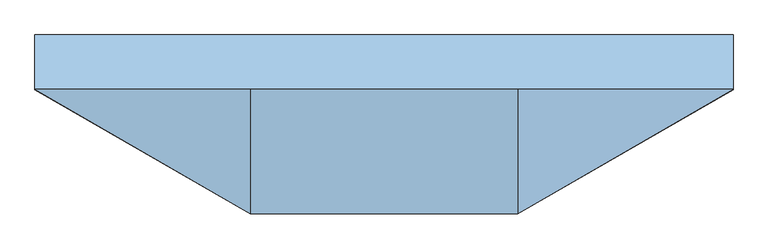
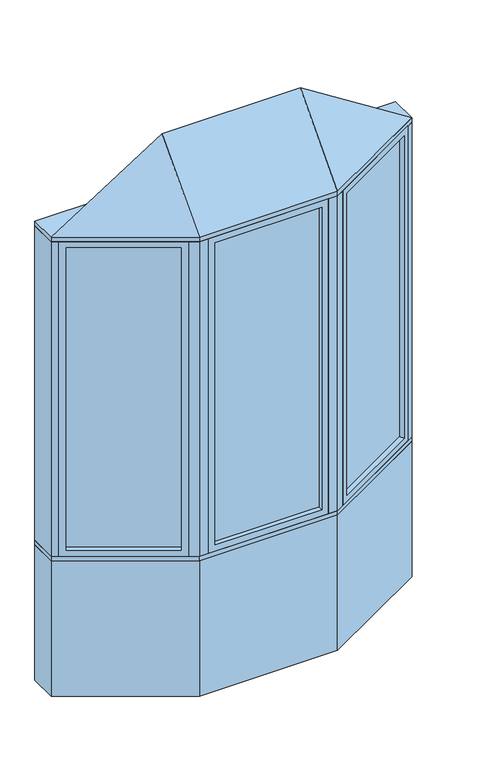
"""IFC4 building model written with IfcOpenShell, lengths in millimetres: window geometry, Pollard_Windows_Tudor Casement Bows and Bays : AML-BAY 30 AFR0618-08-600."""

import ifcopenshell
import ifcopenshell.guid

model = None  # the IFC model being written
_history = None  # IfcOwnerHistory: only IFC2X3 demands one
_inside = {}  # id of a spatial element -> (the spatial element, [elements in it])
_under = {}  # id of a project, library or spatial element -> (it, [spatial elements below it])
_declared = {}  # id of a project -> (the project, [libraries it declares])
_typed = {}  # id of a type object -> (the type object, [elements of that type])
_made_of = {}  # id of a material, layer set ... -> (it, [elements and type objects made of it])


def new_model(schema):
    """Start an empty IFC model of exactly this schema.

    Asked for "IFC4X3", IfcOpenShell would pick the latest addendum, in which some entities
    have other attributes; the version numbers below select the first issue.
    IFC2X3 requires an IfcOwnerHistory on every rooted entity: one is made here for all.
    """
    global model, _history
    if schema == "IFC4X3":
        model = ifcopenshell.file(schema_version=(4, 3, 0, 0))
    else:
        model = ifcopenshell.file(schema=schema)
    _inside.clear()
    _under.clear()
    _declared.clear()
    _typed.clear()
    _made_of.clear()
    _history = None
    if model.schema == "IFC2X3":
        org = make("IfcOrganization", Name="unknown")
        user = make(
            "IfcPersonAndOrganization",
            ThePerson=make("IfcPerson", FamilyName="unknown"),
            TheOrganization=org,
        )
        app = make(
            "IfcApplication",
            ApplicationDeveloper=org,
            Version="unknown",
            ApplicationFullName="unknown",
            ApplicationIdentifier="unknown",
        )
        _history = make(
            "IfcOwnerHistory",
            OwningUser=user,
            OwningApplication=app,
            ChangeAction="ADDED",
            CreationDate=0,
        )
    return model


def make(cls, **values):
    """One entity of the class cls with the attributes given. An attribute that is None is left unset."""
    return model.create_entity(
        cls, **{name: value for name, value in values.items() if value is not None}
    )


def rooted(cls, **values):
    """An entity with a GlobalId (a new one), such as an element, a storey or a relation."""
    return make(cls, GlobalId=ifcopenshell.guid.new(), OwnerHistory=_history, **values)


def si_unit(unit_type, name, prefix=None):
    """IfcSIUnit, for example si_unit("LENGTHUNIT", "METRE", prefix="MILLI")."""
    return make("IfcSIUnit", UnitType=unit_type, Prefix=prefix, Name=name)


def assignment(units):
    """IfcUnitAssignment: the units of a project."""
    return None if units is None else make("IfcUnitAssignment", Units=units)


def point(xyz):
    """IfcCartesianPoint."""
    return None if xyz is None else make("IfcCartesianPoint", Coordinates=xyz)


def direction(xyz):
    """IfcDirection."""
    return None if xyz is None else make("IfcDirection", DirectionRatios=xyz)


def frame(location, z_axis=None, x_axis=None):
    """IfcAxis2Placement3D, a coordinate frame: its origin and axes. An axis left out is left unset."""
    return make(
        "IfcAxis2Placement3D",
        Location=point(location),
        Axis=direction(z_axis),
        RefDirection=direction(x_axis),
    )


def origin():
    """The frame at (0, 0, 0) with its axes left unset."""
    return frame((0.0, 0.0, 0.0))


def origin_with_axes():
    """The frame at (0, 0, 0) with the z axis (0, 0, 1) and the x axis (1, 0, 0) written out."""
    return frame((0.0, 0.0, 0.0), z_axis=(0.0, 0.0, 1.0), x_axis=(1.0, 0.0, 0.0))


def place(relative_to, where):
    """IfcLocalPlacement: puts the frame where relative to a parent placement (None: the world)."""
    return make(
        "IfcLocalPlacement", PlacementRelTo=relative_to, RelativePlacement=where
    )


def context(
    kind, dimensions, precision=None, world=None, true_north=None, identifier=None
):
    """IfcGeometricRepresentationContext, for example the 3D "Model" context."""
    return make(
        "IfcGeometricRepresentationContext",
        ContextIdentifier=identifier,
        ContextType=kind,
        CoordinateSpaceDimension=dimensions,
        Precision=precision,
        WorldCoordinateSystem=world,
        TrueNorth=true_north,
    )


def project(units=None, contexts=None):
    """IfcProject with its units and contexts."""
    return rooted(
        "IfcProject",
        Name="project",
        RepresentationContexts=contexts,
        UnitsInContext=assignment(units),
    )


def spatial(cls, under=None, at=None, **own):
    """A site, building, storey or space (cls), placed at a placement, below another one or the project."""
    s = rooted(cls, ObjectPlacement=at, **own)
    if under is not None:
        _under.setdefault(under.id(), (under, []))[1].append(s)
    return s


def polyline(points):
    """IfcPolyline through the points."""
    return make("IfcPolyline", Points=[point(p) for p in points])


def outline(outer, holes=None, kind="AREA"):
    """IfcArbitraryClosedProfileDef: a profile drawn as a closed curve; with holes, ...WithVoids."""
    if holes is None:
        return make("IfcArbitraryClosedProfileDef", ProfileType=kind, OuterCurve=outer)
    return make(
        "IfcArbitraryProfileDefWithVoids",
        ProfileType=kind,
        OuterCurve=outer,
        InnerCurves=holes,
    )


def extrude(swept, where, along, depth):
    """IfcExtrudedAreaSolid: the profile swept, set in the frame where, extruded along a direction by depth."""
    return make(
        "IfcExtrudedAreaSolid",
        SweptArea=swept,
        Position=where,
        ExtrudedDirection=direction(along),
        Depth=depth,
    )


def faces_of(points, faces, orient=None, outer=None):
    """IfcFace entities. A face is a list of loops; a loop is a list of indices into points, from 0.

    orient and outer hold one flag for each loop. By default every Orientation is true, the
    first loop of a face is its IfcFaceOuterBound and the others are IfcFaceBound.
    """
    made = []
    for i, loops in enumerate(faces):
        bounds = []
        for j, loop in enumerate(loops):
            is_outer = j == 0 if outer is None else outer[i][j]
            bounds.append(
                make(
                    "IfcFaceOuterBound" if is_outer else "IfcFaceBound",
                    Bound=make("IfcPolyLoop", Polygon=[points[k] for k in loop]),
                    Orientation=True if orient is None else orient[i][j],
                )
            )
        made.append(make("IfcFace", Bounds=bounds))
    return made


def faceted_brep(points, faces, orient=None, outer=None, voids=None):
    """IfcFacetedBrep: a solid bounded by flat faces; with voids (closed shells), ...WithVoids."""
    shared = [point(p) for p in points]
    hull = make("IfcClosedShell", CfsFaces=faces_of(shared, faces, orient, outer))
    if voids is None:
        return make("IfcFacetedBrep", Outer=hull)
    return make(
        "IfcFacetedBrepWithVoids",
        Outer=hull,
        Voids=[
            make(cls, CfsFaces=faces_of(shared, fs, o, b)) for cls, fs, o, b in voids
        ],
    )


def shape(context_of_items, identifier, shape_type, items):
    """IfcShapeRepresentation: the items that make up one representation, for example the "Body"."""
    return make(
        "IfcShapeRepresentation",
        ContextOfItems=context_of_items,
        RepresentationIdentifier=identifier,
        RepresentationType=shape_type,
        Items=items,
    )


def source(mapping_origin, context_of_items, identifier, shape_type, items):
    """IfcRepresentationMap: a shape defined once, which mapped items show again and again."""
    return make(
        "IfcRepresentationMap",
        MappingOrigin=mapping_origin,
        MappedRepresentation=shape(context_of_items, identifier, shape_type, items),
    )


def transform(
    local_origin,
    x_axis=None,
    y_axis=None,
    z_axis=None,
    scale=None,
    scale2=None,
    scale3=None,
    uniform=True,
):
    """IfcCartesianTransformationOperator3D, or its non-uniform kind. x_axis, y_axis, z_axis: its Axis1, 2, 3."""
    if uniform:
        return make(
            "IfcCartesianTransformationOperator3D",
            Axis1=direction(x_axis),
            Axis2=direction(y_axis),
            LocalOrigin=point(local_origin),
            Scale=scale,
            Axis3=direction(z_axis),
        )
    return make(
        "IfcCartesianTransformationOperator3DnonUniform",
        Axis1=direction(x_axis),
        Axis2=direction(y_axis),
        LocalOrigin=point(local_origin),
        Scale=scale,
        Axis3=direction(z_axis),
        Scale2=scale2,
        Scale3=scale3,
    )


def mapped(mapping_source, mapping_target):
    """IfcMappedItem: shows the shape of a source again, moved by a transform."""
    return make(
        "IfcMappedItem", MappingSource=mapping_source, MappingTarget=mapping_target
    )


def made_of(thing, what):
    """Note that an element or type object is made of a material, layer set ...; save() writes the relation."""
    if what is not None:
        _made_of.setdefault(what.id(), (what, []))[1].append(thing)
    return thing


def element(
    cls,
    number,
    at=None,
    inside=None,
    cuts=None,
    type_object=None,
    material=None,
    context=None,
    identifier="Body",
    shape_type=None,
    held_by="IfcProductDefinitionShape",
    body=None,
    shapes=None,
    **own,
):
    """One element of the class cls, such as IfcWall. Its Tag is "e" and its number.

    at: its placement. inside: the storey or other place that contains it. cuts: it is an
    opening in that element (IfcRelVoidsElement). A single representation is given by context,
    identifier, shape_type and body (its items); several are given by shapes. held_by: the class
    of the entity that holds the representations. save() writes the other relations.
    """
    e = rooted(cls, Tag="e%d" % number, ObjectPlacement=at, **own)
    if body is not None:
        shapes = [shape(context, identifier, shape_type, body)]
    if shapes is not None:
        e.Representation = make(held_by, Representations=shapes)
    if inside is not None:
        _inside.setdefault(inside.id(), (inside, []))[1].append(e)
    if cuts is not None:
        rooted(
            "IfcRelVoidsElement", RelatingBuildingElement=cuts, RelatedOpeningElement=e
        )
    if type_object is not None:
        _typed.setdefault(type_object.id(), (type_object, []))[1].append(e)
    return made_of(e, material)


def aggregate(whole, parts):
    """IfcRelAggregates: a whole, such as a stair, and the parts it consists of."""
    return rooted("IfcRelAggregates", RelatingObject=whole, RelatedObjects=parts)


def save(model, path):
    """Write the relations noted so far, then the file.

    IfcRelAggregates (storeys below a building ...), IfcRelContainedInSpatialStructure (elements
    in a storey), IfcRelDefinesByType, IfcRelAssociatesMaterial and IfcRelDeclares: one each for
    every whole, place, type object, material and project.
    """
    for whole, parts in _under.values():
        aggregate(whole, parts)
    for where, things in _inside.values():
        rooted(
            "IfcRelContainedInSpatialStructure",
            RelatedElements=things,
            RelatingStructure=where,
        )
    for kind, things in _typed.values():
        rooted("IfcRelDefinesByType", RelatedObjects=things, RelatingType=kind)
    for what, things in _made_of.values():
        rooted("IfcRelAssociatesMaterial", RelatedObjects=things, RelatingMaterial=what)
    for by, libraries in _declared.values():
        rooted("IfcRelDeclares", RelatingContext=by, RelatedDefinitions=libraries)
    model.write(path)


def window_896159a1(model_context):
    return source(origin(), model_context, "Body", "SolidModel", [
        extrude(outline(polyline([(913.112102, -82.0482469), (424.8834764, -363.9271754), (422.3434764, -359.5277664), (910.572102, -77.6488379), (913.112102, -82.0482469)])), frame((0.0, 0.0, 823.1628), z_axis=(0.0, 0.0, 1.0), x_axis=(1.0, 0.0, 0.0)), (0.0, 0.0, 1.0), 1753.6704),
        faceted_brep([(902.1135794, -88.3982469, 835.8628), (914.8135794, -110.3952922, 835.8628), (914.8135794, -110.3952922, 2564.1332), (902.1135794, -88.3982469, 2564.1332), (910.572102, -77.6488379, 823.1628), (913.112102, -82.0482469, 823.1628), (913.112102, -82.0482469, 2576.8332), (910.572102, -77.6488379, 2576.8332), (886.8735794, -62.0017926, 835.8628), (899.5735794, -83.9988379, 835.8628), (899.5735794, -83.9988379, 2564.1332), (886.8735794, -62.0017926, 2564.1332), (945.8734073, -92.4628922, 799.998), (917.9334073, -44.0693926, 799.998), (917.9334073, -44.0693926, 2599.998), (945.8734073, -92.4628922, 2599.998), (448.581999, -379.5742207, 2564.1332), (435.881999, -357.5771754, 2564.1332), (424.8834764, -363.9271754, 2576.8332), (422.3434764, -359.5277664, 2576.8332), (433.341999, -353.1777664, 2564.1332), (420.641999, -331.1807211, 2564.1332), (389.5821711, -349.1131211, 2599.998), (417.5221711, -397.5066207, 2599.998), (448.581999, -379.5742207, 835.8628), (435.881999, -357.5771754, 835.8628), (424.8834764, -363.9271754, 823.1628), (422.3434764, -359.5277664, 823.1628), (433.341999, -353.1777664, 835.8628), (420.641999, -331.1807211, 835.8628), (389.5821711, -349.1131211, 799.998), (417.5221711, -397.5066207, 799.998)], [[[0, 1, 2, 3]], [[4, 5, 6, 7]], [[8, 9, 10, 11]], [[12, 13, 14, 15]], [[3, 2, 16, 17]], [[7, 6, 18, 19]], [[11, 10, 20, 21]], [[15, 14, 22, 23]], [[17, 16, 24, 25]], [[19, 18, 26, 27]], [[21, 20, 28, 29]], [[23, 22, 30, 31]], [[25, 24, 1, 0]], [[5, 26, 18, 6], [3, 17, 25, 0]], [[27, 26, 5, 4]], [[7, 19, 27, 4], [9, 28, 20, 10]], [[29, 28, 9, 8]], [[13, 30, 22, 14], [11, 21, 29, 8]], [[31, 30, 13, 12]], [[15, 23, 31, 12], [1, 24, 16, 2]]]),
        extrude(outline(polyline([(-424.8834764, -363.9271754), (-913.112102, -82.0482469), (-910.572102, -77.6488379), (-422.3434764, -359.5277664), (-424.8834764, -363.9271754)])), frame((0.0, 0.0, 823.1628), z_axis=(0.0, 0.0, 1.0), x_axis=(1.0, 0.0, 0.0)), (0.0, 0.0, 1.0), 1753.6704),
        faceted_brep([(-433.341999, -353.1777664, 2564.1332), (-420.641999, -331.1807211, 2564.1332), (-420.641999, -331.1807211, 835.8628), (-433.341999, -353.1777664, 835.8628), (-424.8834764, -363.9271754, 2576.8332), (-422.3434764, -359.5277664, 2576.8332), (-422.3434764, -359.5277664, 823.1628), (-424.8834764, -363.9271754, 823.1628), (-448.581999, -379.5742207, 2564.1332), (-435.881999, -357.5771754, 2564.1332), (-435.881999, -357.5771754, 835.8628), (-448.581999, -379.5742207, 835.8628), (-389.5821711, -349.1131211, 2599.998), (-417.5221711, -397.5066207, 2599.998), (-417.5221711, -397.5066207, 799.998), (-389.5821711, -349.1131211, 799.998), (-886.8735794, -62.0017926, 835.8628), (-899.5735794, -83.9988379, 835.8628), (-910.572102, -77.6488379, 823.1628), (-913.112102, -82.0482469, 823.1628), (-902.1135794, -88.3982469, 835.8628), (-914.8135794, -110.3952922, 835.8628), (-945.8734073, -92.4628922, 799.998), (-917.9334073, -44.0693926, 799.998), (-886.8735794, -62.0017926, 2564.1332), (-899.5735794, -83.9988379, 2564.1332), (-910.572102, -77.6488379, 2576.8332), (-913.112102, -82.0482469, 2576.8332), (-902.1135794, -88.3982469, 2564.1332), (-914.8135794, -110.3952922, 2564.1332), (-945.8734073, -92.4628922, 2599.998), (-917.9334073, -44.0693926, 2599.998)], [[[0, 1, 2, 3]], [[4, 5, 6, 7]], [[8, 9, 10, 11]], [[12, 13, 14, 15]], [[3, 2, 16, 17]], [[7, 6, 18, 19]], [[11, 10, 20, 21]], [[15, 14, 22, 23]], [[17, 16, 24, 25]], [[19, 18, 26, 27]], [[21, 20, 28, 29]], [[23, 22, 30, 31]], [[15, 23, 31, 12], [1, 24, 16, 2]], [[25, 24, 1, 0]], [[5, 26, 18, 6], [3, 17, 25, 0]], [[27, 26, 5, 4]], [[7, 19, 27, 4], [9, 28, 20, 10]], [[29, 28, 9, 8]], [[13, 30, 22, 14], [11, 21, 29, 8]], [[31, 30, 13, 12]]]),
        extrude(outline(polyline([(301.0561009, -397.1066207), (-301.0561009, -397.1066207), (-301.0561009, -392.0266207), (301.0561009, -392.0266207), (301.0561009, -397.1066207)])), frame((0.0, 0.0, 823.1628), z_axis=(0.0, 0.0, 1.0), x_axis=(1.0, 0.0, 0.0)), (0.0, 0.0, 1.0), 1753.6704),
        faceted_brep([(288.3561009, -397.1066207, 835.8628), (288.3561009, -422.5066207, 835.8628), (288.3561009, -422.5066207, 2564.1332), (288.3561009, -397.1066207, 2564.1332), (301.0561009, -392.0266207, 823.1628), (301.0561009, -397.1066207, 823.1628), (301.0561009, -397.1066207, 2576.8332), (301.0561009, -392.0266207, 2576.8332), (288.3561009, -366.6266207, 835.8628), (288.3561009, -392.0266207, 835.8628), (288.3561009, -392.0266207, 2564.1332), (288.3561009, -366.6266207, 2564.1332), (324.2209009, -422.5066207, 799.998), (324.2209009, -366.6266207, 799.998), (324.2209009, -366.6266207, 2599.998), (324.2209009, -422.5066207, 2599.998), (-288.3561009, -422.5066207, 2564.1332), (-288.3561009, -397.1066207, 2564.1332), (-301.0561009, -397.1066207, 2576.8332), (-301.0561009, -392.0266207, 2576.8332), (-288.3561009, -392.0266207, 2564.1332), (-288.3561009, -366.6266207, 2564.1332), (-324.2209009, -366.6266207, 2599.998), (-324.2209009, -422.5066207, 2599.998), (-288.3561009, -422.5066207, 835.8628), (-288.3561009, -397.1066207, 835.8628), (-301.0561009, -397.1066207, 823.1628), (-301.0561009, -392.0266207, 823.1628), (-288.3561009, -392.0266207, 835.8628), (-288.3561009, -366.6266207, 835.8628), (-324.2209009, -366.6266207, 799.998), (-324.2209009, -422.5066207, 799.998)], [[[0, 1, 2, 3]], [[4, 5, 6, 7]], [[8, 9, 10, 11]], [[12, 13, 14, 15]], [[3, 2, 16, 17]], [[7, 6, 18, 19]], [[11, 10, 20, 21]], [[15, 14, 22, 23]], [[17, 16, 24, 25]], [[19, 18, 26, 27]], [[21, 20, 28, 29]], [[23, 22, 30, 31]], [[15, 23, 31, 12], [1, 24, 16, 2]], [[25, 24, 1, 0]], [[5, 26, 18, 6], [3, 17, 25, 0]], [[27, 26, 5, 4]], [[7, 19, 27, 4], [9, 28, 20, 10]], [[29, 28, 9, 8]], [[13, 30, 22, 14], [11, 21, 29, 8]], [[31, 30, 13, 12]]]),
        faceted_brep([(976.5, -74.7806207, 2625.398), (374.2209009, -422.5066207, 2625.398), (-374.2209009, -422.5066207, 2625.398), (-976.5, -74.7806207, 2625.398), (-374.2209009, -74.7806207, 3006.398), (374.2209009, -74.7806207, 3006.398)], [[[0, 1, 2, 3]], [[3, 2, 4]], [[2, 1, 5, 4]], [[1, 0, 5]], [[0, 3, 4, 5]]]),
        extrude(outline(polyline([(-976.5, 77.6193793), (976.5, 77.6193793), (976.5, -74.7806207), (374.2209009, -422.5066207), (-374.2209009, -422.5066207), (-976.5, -74.7806207), (-976.5, 77.6193793)])), frame((0.0, 0.0, 2599.998), z_axis=(0.0, 0.0, 1.0), x_axis=(1.0, 0.0, 0.0)), (0.0, 0.0, 1.0), 25.4),
        extrude(outline(polyline([(-976.5, -74.7806207), (-976.5, 77.6193793), (-935.6645431, 77.6193793), (-935.6645431, -74.7806207), (-945.8734073, -92.4628922), (-976.5, -74.7806207)])), frame((0.0, 0.0, 799.998), z_axis=(0.0, 0.0, 1.0), x_axis=(1.0, 0.0, 0.0)), (0.0, 0.0, 1.0), 1800.0),
        extrude(outline(polyline([(976.5, 77.6193793), (976.5, -74.7806207), (945.8734073, -92.4628922), (935.6645431, -74.7806207), (935.6645431, 77.6193793), (976.5, 77.6193793)])), frame((0.0, 0.0, 799.998), z_axis=(0.0, 0.0, 1.0), x_axis=(1.0, 0.0, 0.0)), (0.0, 0.0, 1.0), 1800.0),
        extrude(outline(polyline([(374.2209009, -422.5066207), (324.2209009, -422.5066207), (324.2209009, -372.5066207), (360.8234413, -372.5066207), (392.5221711, -354.2053505), (417.5221711, -397.5066207), (374.2209009, -422.5066207)])), frame((0.0, 0.0, 799.998), z_axis=(0.0, 0.0, 1.0), x_axis=(1.0, 0.0, 0.0)), (0.0, 0.0, 1.0), 1800.0),
        extrude(outline(polyline([(-374.2209009, -422.5066207), (-417.5221711, -397.5066207), (-392.5221711, -354.2053505), (-360.8234413, -372.5066207), (-324.2209009, -372.5066207), (-324.2209009, -422.5066207), (-374.2209009, -422.5066207)])), frame((0.0, 0.0, 799.998), z_axis=(0.0, 0.0, 1.0), x_axis=(1.0, 0.0, 0.0)), (0.0, 0.0, 1.0), 1800.0),
        extrude(outline(polyline([(-374.2209009, -422.5066207), (-976.5, -74.7806207), (-976.5, 77.6193793), (-935.6645431, 77.6193793), (-333.385444, -270.1066207), (333.385444, -270.1066207), (935.6645431, 77.6193793), (976.5, 77.6193793), (976.5, -74.7806207), (374.2209009, -422.5066207), (-374.2209009, -422.5066207)])), frame((0.0, 0.0, 774.598), z_axis=(0.0, 0.0, 1.0), x_axis=(1.0, 0.0, 0.0)), (0.0, 0.0, 1.0), 25.4),
        extrude(outline(polyline([(-976.5, -74.7806207), (-976.5, 77.6193793), (-935.6645431, 77.6193793), (-333.385444, -270.1066207), (333.385444, -270.1066207), (935.6645431, 77.6193793), (976.5, 77.6193793), (976.5, -74.7806207), (374.2209009, -422.5066207), (-374.2209009, -422.5066207), (-976.5, -74.7806207)])), origin_with_axes(), (0.0, 0.0, 1.0), 774.598),
    ])


if __name__ == "__main__":
    model = new_model("IFC4")
    model_context = context("Model", 3, world=origin())
    ifc_project = project(units=[si_unit("LENGTHUNIT", "METRE", prefix="MILLI")], contexts=[model_context])
    site = spatial("IfcSite", under=ifc_project)
    building = spatial("IfcBuilding", under=site)
    placement = place(None, origin())
    window_shape = window_896159a1(model_context)
    element("IfcWindow", 1, ObjectType="Pollard_Windows_Tudor Casement Bows and Bays : AML-BAY 30 AFR0618-08-600", at=placement, inside=building, context=model_context, shape_type="MappedRepresentation", body=[
        mapped(window_shape, transform((0.0, 0.0, 0.0), x_axis=(1.0, 0.0, 0.0), y_axis=(0.0, 1.0, 0.0), z_axis=(0.0, 0.0, 1.0))),
    ])
    save(model, "model.ifc")
